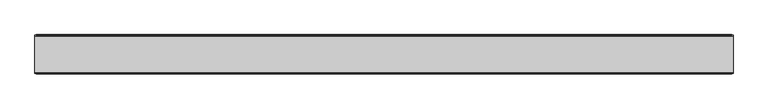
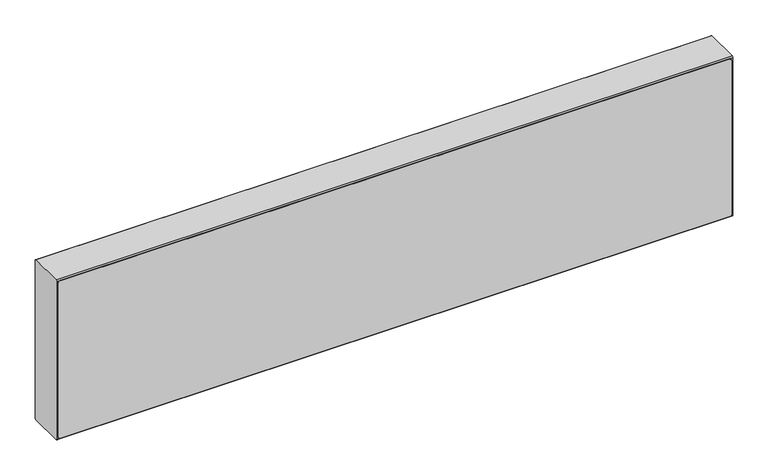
"""IFC4 building model written with IfcOpenShell, lengths in millimetres: proxy geometry, EVRA CV Д : 21-300-1200."""

from ifc_helpers import new_model, si_unit, point, frame, frame_2d, origin, place, context, project, spatial, polyline, circle_curve, trimmed, segment, composite_curve, outline, extrude, source, transform, mapped, element, save


def mechanical_equipment_da64a6a1(model_context):
    return source(origin(), model_context, "Body", "SweptSolid", [
        extrude(outline(composite_curve([segment(polyline([(398.0, 793.0), (398.0, -393.0)]), True, "CONTINUOUS"), segment(trimmed(circle_curve(frame_2d((393.0, -393.0)), 5.0), [point((398.0, -393.0))], [point((393.0, -398.0))], False, "CARTESIAN"), True, "CONTINUOUS"), segment(polyline([(393.0, -398.0), (107.0, -398.0)]), True, "CONTINUOUS"), segment(trimmed(circle_curve(frame_2d((107.0, -393.0)), 5.0), [point((107.0, -398.0))], [point((102.0, -393.0))], False, "CARTESIAN"), True, "CONTINUOUS"), segment(polyline([(102.0, -393.0), (102.0, 793.0)]), True, "CONTINUOUS"), segment(trimmed(circle_curve(frame_2d((107.0, 793.0)), 5.0), [point((102.0, 793.0))], [point((107.0, 798.0))], False, "CARTESIAN"), True, "CONTINUOUS"), segment(polyline([(107.0, 798.0), (393.0, 798.0)]), True, "CONTINUOUS"), segment(trimmed(circle_curve(frame_2d((393.0, 793.0)), 5.0), [point((393.0, 798.0))], [point((398.0, 793.0))], False, "CARTESIAN"), True, "CONTINUOUS")], self_intersect=False)), frame((0.0, 11.4631102, 0.0), z_axis=(0.0, 1.0, 0.0), x_axis=(0.0, 0.0, 1.0)), (0.0, 0.0, 1.0), 1.0),
        extrude(outline(composite_curve([segment(polyline([(398.0, 793.0), (398.0, -393.0)]), True, "CONTINUOUS"), segment(trimmed(circle_curve(frame_2d((393.0, -393.0)), 5.0), [point((398.0, -393.0))], [point((393.0, -398.0))], False, "CARTESIAN"), True, "CONTINUOUS"), segment(polyline([(393.0, -398.0), (107.0, -398.0)]), True, "CONTINUOUS"), segment(trimmed(circle_curve(frame_2d((107.0, -393.0)), 5.0), [point((107.0, -398.0))], [point((102.0, -393.0))], False, "CARTESIAN"), True, "CONTINUOUS"), segment(polyline([(102.0, -393.0), (102.0, 793.0)]), True, "CONTINUOUS"), segment(trimmed(circle_curve(frame_2d((107.0, 793.0)), 5.0), [point((102.0, 793.0))], [point((107.0, 798.0))], False, "CARTESIAN"), True, "CONTINUOUS"), segment(polyline([(107.0, 798.0), (393.0, 798.0)]), True, "CONTINUOUS"), segment(trimmed(circle_curve(frame_2d((393.0, 793.0)), 5.0), [point((393.0, 798.0))], [point((398.0, 793.0))], False, "CARTESIAN"), True, "CONTINUOUS")], self_intersect=False)), frame((0.0, -55.5368898, 0.0), z_axis=(0.0, 1.0, 0.0), x_axis=(0.0, 0.0, 1.0)), (0.0, 0.0, 1.0), 1.0),
        extrude(outline(composite_curve([segment(trimmed(circle_curve(frame_2d((9.4631102, 398.0)), 2.0), [point((9.4631102, 400.0))], [point((11.4631102, 398.0))], False, "CARTESIAN"), True, "CONTINUOUS"), segment(polyline([(11.4631102, 398.0), (11.4631102, 102.0)]), True, "CONTINUOUS"), segment(trimmed(circle_curve(frame_2d((9.4631102, 102.0)), 2.0), [point((11.4631102, 102.0))], [point((9.4631102, 100.0))], False, "CARTESIAN"), True, "CONTINUOUS"), segment(polyline([(9.4631102, 100.0), (-52.5368898, 100.0)]), True, "CONTINUOUS"), segment(trimmed(circle_curve(frame_2d((-52.5368898, 102.0)), 2.0), [point((-52.5368898, 100.0))], [point((-54.5368898, 102.0))], False, "CARTESIAN"), True, "CONTINUOUS"), segment(polyline([(-54.5368898, 102.0), (-54.5368898, 398.0)]), True, "CONTINUOUS"), segment(trimmed(circle_curve(frame_2d((-52.5368898, 398.0)), 2.0), [point((-54.5368898, 398.0))], [point((-52.5368898, 400.0))], False, "CARTESIAN"), True, "CONTINUOUS"), segment(polyline([(-52.5368898, 400.0), (9.4631102, 400.0)]), True, "CONTINUOUS")], self_intersect=False)), frame((-400.0, 0.0, 0.0), z_axis=(1.0, 0.0, 0.0), x_axis=(0.0, 1.0, 0.0)), (0.0, 0.0, 1.0), 1200.0),
    ])


if __name__ == "__main__":
    model = new_model("IFC4")
    model_context = context("Model", 3, world=origin())
    ifc_project = project(units=[si_unit("LENGTHUNIT", "METRE", prefix="MILLI")], contexts=[model_context])
    site = spatial("IfcSite", under=ifc_project)
    building = spatial("IfcBuilding", under=site)
    placement = place(None, origin())
    mechanical_equipment_shape = mechanical_equipment_da64a6a1(model_context)
    element("IfcBuildingElementProxy", 1, Name="EVRA CV Д : 21-300-1200", ObjectType="EVRA CV Д : 21-300-1200", at=placement, inside=building, context=model_context, shape_type="MappedRepresentation", body=[
        mapped(mechanical_equipment_shape, transform((0.0, 0.0, 0.0), x_axis=(1.0, 0.0, 0.0), y_axis=(0.0, 1.0, 0.0), z_axis=(0.0, 0.0, 1.0))),
    ])
    save(model, "model.ifc")
